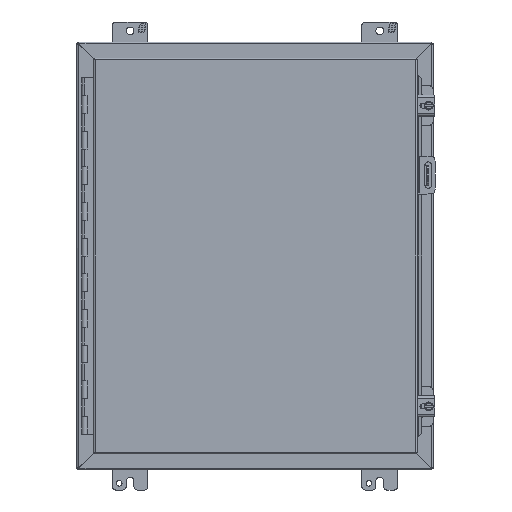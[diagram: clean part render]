
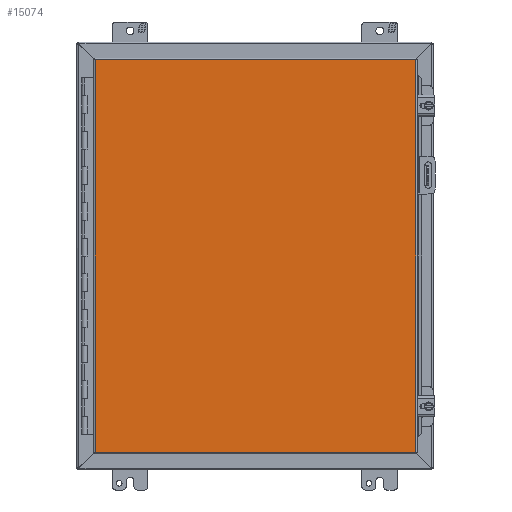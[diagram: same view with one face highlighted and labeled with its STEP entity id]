
A CAD part, front view. The second image highlights one B-rep face of the part: STEP entity #15074.
In plain terms, the highlighted planar face has unit normal (0, -1, 0).
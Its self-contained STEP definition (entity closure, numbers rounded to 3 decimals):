
#3101=ORIENTED_EDGE('',*,*,#6646,.T.);
#3102=ORIENTED_EDGE('',*,*,#6647,.T.);
#3103=ORIENTED_EDGE('',*,*,#6648,.T.);
#3104=ORIENTED_EDGE('',*,*,#6649,.T.);
#6646=EDGE_CURVE('',#8534,#8535,#9930,.T.);
#6647=EDGE_CURVE('',#8535,#8536,#9931,.T.);
#6648=EDGE_CURVE('',#8536,#8537,#9932,.T.);
#6649=EDGE_CURVE('',#8537,#8534,#9933,.T.);
#8534=VERTEX_POINT('',#22628);
#8535=VERTEX_POINT('',#22629);
#8536=VERTEX_POINT('',#22631);
#8537=VERTEX_POINT('',#22633);
#9930=LINE('',#22627,#11379);
#9931=LINE('',#22630,#11380);
#9932=LINE('',#22632,#11381);
#9933=LINE('',#22634,#11382);
#11379=VECTOR('',#18481,1000.);
#11380=VECTOR('',#18482,1000.);
#11381=VECTOR('',#18483,1000.);
#11382=VECTOR('',#18484,1000.);
#12642=EDGE_LOOP('',(#3101,#3102,#3103,#3104));
#13599=FACE_BOUND('',#12642,.T.);
#14421=PLANE('',#16219);
#15074=ADVANCED_FACE('',(#13599),#14421,.T.);
#16219=AXIS2_PLACEMENT_3D('',#22626,#18479,#18480);
#18479=DIRECTION('',(0.,-1.,0.));
#18480=DIRECTION('',(0.,0.,-1.));
#18481=DIRECTION('',(0.,0.,-1.));
#18482=DIRECTION('',(1.,0.,0.));
#18483=DIRECTION('',(0.,0.,1.));
#18484=DIRECTION('',(-1.,0.,0.));
#22626=CARTESIAN_POINT('',(-228.244,0.,-279.26));
#22627=CARTESIAN_POINT('',(-228.244,0.,279.26));
#22628=CARTESIAN_POINT('',(-228.244,0.,279.26));
#22629=CARTESIAN_POINT('',(-228.244,0.,-279.26));
#22630=CARTESIAN_POINT('',(-228.244,0.,-279.26));
#22631=CARTESIAN_POINT('',(228.244,0.,-279.26));
#22632=CARTESIAN_POINT('',(228.244,0.,-279.26));
#22633=CARTESIAN_POINT('',(228.244,0.,279.26));
#22634=CARTESIAN_POINT('',(228.244,0.,279.26));
